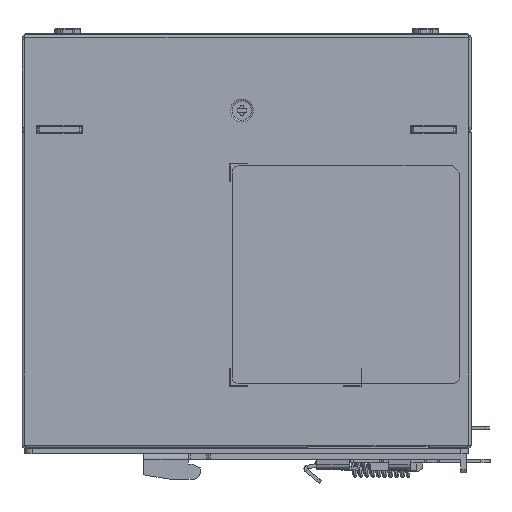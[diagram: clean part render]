
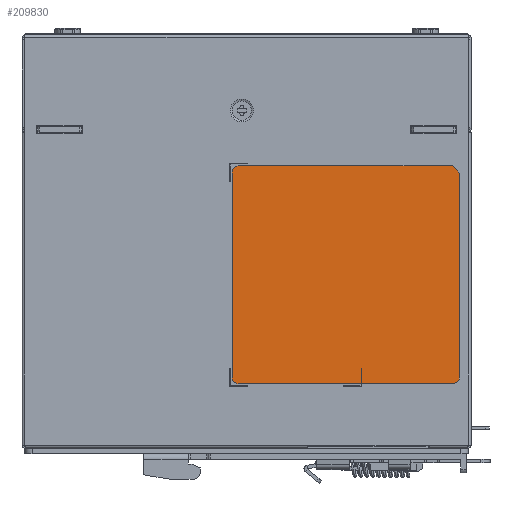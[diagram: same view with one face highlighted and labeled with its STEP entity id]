
A CAD part, left-side view. The second image highlights one B-rep face of the part: STEP entity #209830.
In plain terms, the highlighted planar face has unit normal (-1, 0, 0).
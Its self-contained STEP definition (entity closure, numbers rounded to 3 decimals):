
#64415=DIRECTION('',(0.,0.707,0.707));
#64416=VECTOR('',#64415,2.828);
#64417=CARTESIAN_POINT('',(-13.85,-58.6,22.25));
#64418=LINE('',#64417,#64416);
#64419=DIRECTION('',(0.,0.,1.));
#64420=VECTOR('',#64419,56.);
#64421=CARTESIAN_POINT('',(-13.85,-58.6,-33.75));
#64422=LINE('',#64421,#64420);
#64423=CARTESIAN_POINT('',(-13.85,-56.6,-33.75));
#64424=DIRECTION('',(-1.,0.,0.));
#64425=DIRECTION('',(0.,0.,-1.));
#64426=AXIS2_PLACEMENT_3D('',#64423,#64424,#64425);
#64428=DIRECTION('',(0.,-1.,0.));
#64429=VECTOR('',#64428,58.6);
#64430=CARTESIAN_POINT('',(-13.85,2.,-35.75));
#64431=LINE('',#64430,#64429);
#64432=CARTESIAN_POINT('',(-13.85,2.,-33.75));
#64433=DIRECTION('',(-1.,0.,0.));
#64434=DIRECTION('',(0.,1.,0.));
#64435=AXIS2_PLACEMENT_3D('',#64432,#64433,#64434);
#64437=DIRECTION('',(0.,0.,-1.));
#64438=VECTOR('',#64437,56.);
#64439=CARTESIAN_POINT('',(-13.85,4.,22.25));
#64440=LINE('',#64439,#64438);
#64441=CARTESIAN_POINT('',(-13.85,2.,22.25));
#64442=DIRECTION('',(-1.,0.,0.));
#64443=DIRECTION('',(0.,0.,1.));
#64444=AXIS2_PLACEMENT_3D('',#64441,#64442,#64443);
#64446=DIRECTION('',(0.,1.,0.));
#64447=VECTOR('',#64446,58.6);
#64448=CARTESIAN_POINT('',(-13.85,-56.6,24.25));
#64449=LINE('',#64448,#64447);
#70867=CARTESIAN_POINT('',(-13.85,4.,-33.75));
#70868=CARTESIAN_POINT('',(-13.85,2.,-35.75));
#70869=VERTEX_POINT('',#70867);
#70870=VERTEX_POINT('',#70868);
#70871=CARTESIAN_POINT('',(-13.85,2.,24.25));
#70872=CARTESIAN_POINT('',(-13.85,4.,22.25));
#70873=VERTEX_POINT('',#70871);
#70874=VERTEX_POINT('',#70872);
#70875=CARTESIAN_POINT('',(-13.85,-56.6,-35.75));
#70876=CARTESIAN_POINT('',(-13.85,-58.6,-33.75));
#70877=VERTEX_POINT('',#70875);
#70878=VERTEX_POINT('',#70876);
#70879=CARTESIAN_POINT('',(-13.85,-58.6,22.25));
#70880=CARTESIAN_POINT('',(-13.85,-56.6,24.25));
#70881=VERTEX_POINT('',#70879);
#70882=VERTEX_POINT('',#70880);
#209815=CARTESIAN_POINT('',(-13.85,60.,59.45));
#209816=DIRECTION('',(-1.,0.,0.));
#209817=DIRECTION('',(0.,0.,1.));
#209818=AXIS2_PLACEMENT_3D('',#209815,#209816,#209817);
#209819=PLANE('',#209818);
#209820=ORIENTED_EDGE('',*,*,#209761,.F.);
#209821=ORIENTED_EDGE('',*,*,#209782,.F.);
#209822=ORIENTED_EDGE('',*,*,#209802,.F.);
#209823=ORIENTED_EDGE('',*,*,#209652,.F.);
#209824=ORIENTED_EDGE('',*,*,#209677,.F.);
#209825=ORIENTED_EDGE('',*,*,#209698,.F.);
#209826=ORIENTED_EDGE('',*,*,#209719,.F.);
#209827=ORIENTED_EDGE('',*,*,#209740,.F.);
#209828=EDGE_LOOP('',(#209820,#209821,#209822,#209823,#209824,#209825,#209826,
#209827));
#209829=FACE_OUTER_BOUND('',#209828,.F.);
#209830=ADVANCED_FACE('',(#209829),#209819,.T.);
#64427=CIRCLE('',#64426,2.);
#64436=CIRCLE('',#64435,2.);
#64445=CIRCLE('',#64444,2.);
#209652=EDGE_CURVE('',#70870,#70877,#64431,.T.);
#209677=EDGE_CURVE('',#70869,#70870,#64436,.T.);
#209698=EDGE_CURVE('',#70874,#70869,#64440,.T.);
#209719=EDGE_CURVE('',#70873,#70874,#64445,.T.);
#209740=EDGE_CURVE('',#70882,#70873,#64449,.T.);
#209761=EDGE_CURVE('',#70881,#70882,#64418,.T.);
#209782=EDGE_CURVE('',#70878,#70881,#64422,.T.);
#209802=EDGE_CURVE('',#70877,#70878,#64427,.T.);
